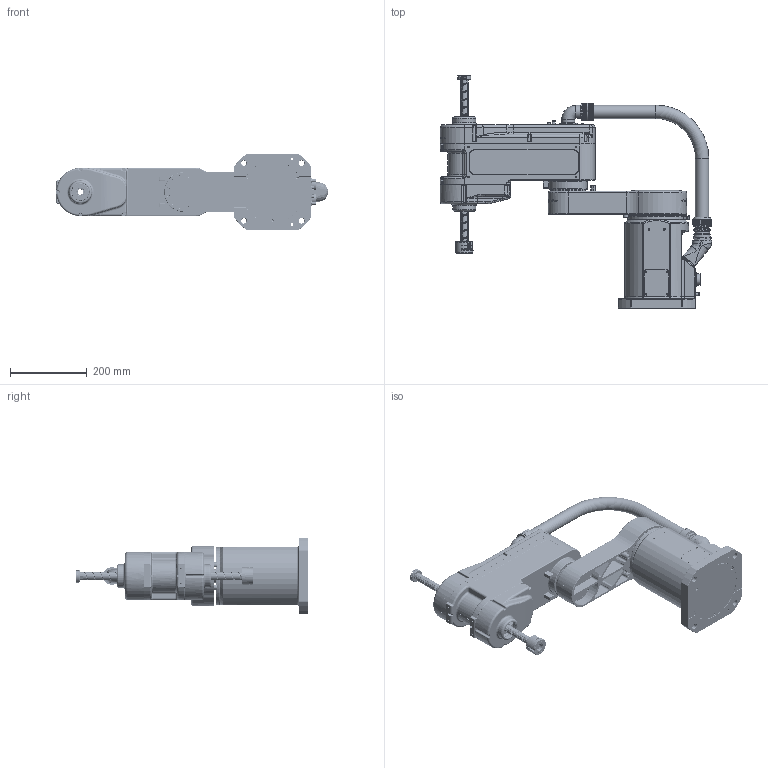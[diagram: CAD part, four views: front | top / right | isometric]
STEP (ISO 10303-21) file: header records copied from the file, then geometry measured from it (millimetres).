
FILE_DESCRIPTION (( 'STEP AP214' ), '1' );
FILE_NAME ('R4-0605G-00.STEP', '2022-12-30T03:24:58', ( 'iCura' ), ( 'ICOS' ), 'SwSTEP 2.0', 'SolidWorks 2018', '' );
FILE_SCHEMA (( 'AUTOMOTIVE_DESIGN' ));
Length unit declared in the file: millimetre
Products named in the file (7): R4-0605G-00; 疏恇奪R4-0605; R4-0606-3-00; R4-0605-2-00; R4-0606-1-00; R4-0606-4-00 ; TMY  90度旋转软管接头（AD34.5)
Assembly tree (6 placements, depth 2):
  R4-0605G-00
    R4-0606-1-00
    R4-0605-2-00
    R4-0606-3-00
    疏恇奪R4-0605
    TMY  90度旋转软管接头（AD34.5)
    R4-0606-4-00 
Bounding box: 705.51 x 604.63 x 200 mm (x, y, z)
Volume: 191810.5 mm3; surface area: 1167241 mm2
Topology: 2 solids, 157 shells, 2512 faces, 7877 edges, 5429 vertices
Faces by surface type: cylinder 1160, plane 837, torus 173, bspline 171, cone 148, sphere 23
Full cylindrical faces by diameter (mm): 1 x18, 2.5 x31, 3.1 x3, 3.2 x8, 3.3 x14, 3.4 x24, 3.5 x36, 4 x6, 4.134 x1, 4.2 x22, 4.5 x17, 5 x3, 5.3 x4, 5.5 x33, 5.891 x2, 6 x14, 6.5 x4, 7 x17, 7.5 x2, 8 x20, 10 x1, 13 x2, 14 x7, 14.9 x1, 18 x1, 20 x2, 26 x1, 29 x2, 30 x4, 30.2 x1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
Entity records: 131934 total; most frequent: CARTESIAN_POINT 41042, DIRECTION 13438, ORIENTED_EDGE 12200, EDGE_CURVE 7129, VERTEX_POINT 5226, AXIS2_PLACEMENT_3D 5223, EDGE_LOOP 3570, LINE 2992
